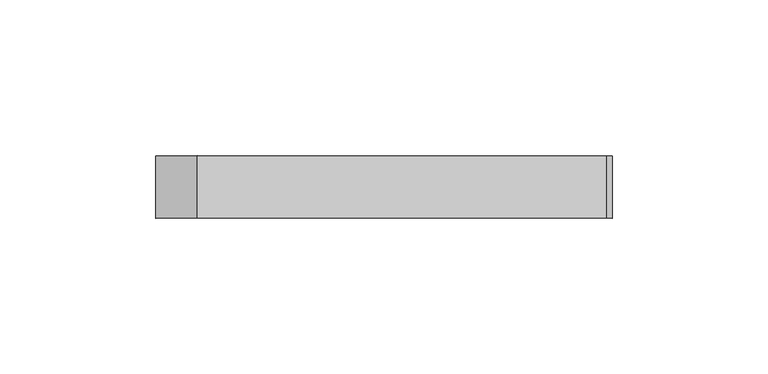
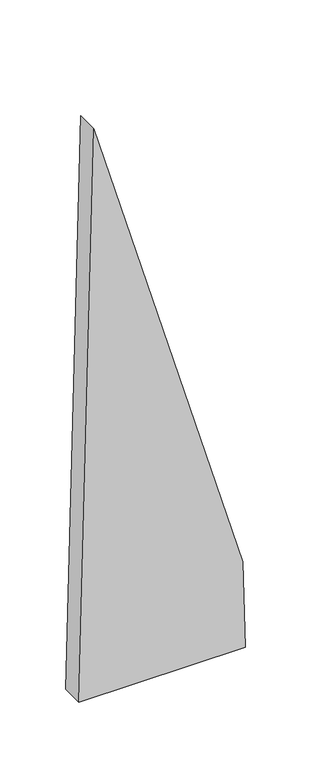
"""IFC4 building model written with IfcOpenShell, lengths in millimetres: plate geometry, 空系统嵌板 : 空."""

from ifc_helpers import new_model, si_unit, frame, origin, place, context, project, spatial, polyline, outline, extrude, source, transform, mapped, element, save


def plate_4d92cb37(model_context):
    return source(origin(), model_context, "Body", "SweptSolid", [
        extrude(outline(polyline([(0.0, -73.1758057), (0.0, 73.1758057), (80.2980242, 71.233866), (528.7503632, -59.8462792), (0.0, -73.1758057)])), frame((0.0, -10.0, 0.0), z_axis=(0.0, 1.0, 0.0), x_axis=(0.0, 0.0, 1.0)), (0.0, 0.0, 1.0), 20.0),
    ])


if __name__ == "__main__":
    model = new_model("IFC4")
    model_context = context("Model", 3, world=origin())
    ifc_project = project(units=[si_unit("LENGTHUNIT", "METRE", prefix="MILLI")], contexts=[model_context])
    site = spatial("IfcSite", under=ifc_project)
    building = spatial("IfcBuilding", under=site)
    placement = place(None, origin())
    plate_shape = plate_4d92cb37(model_context)
    element("IfcPlate", 1, ObjectType="空系统嵌板 : 空", at=placement, inside=building, context=model_context, shape_type="MappedRepresentation", body=[
        mapped(plate_shape, transform((0.0, 0.0, 0.0), x_axis=(1.0, 0.0, 0.0), y_axis=(0.0, 1.0, 0.0), z_axis=(0.0, 0.0, 1.0))),
    ])
    save(model, "model.ifc")
